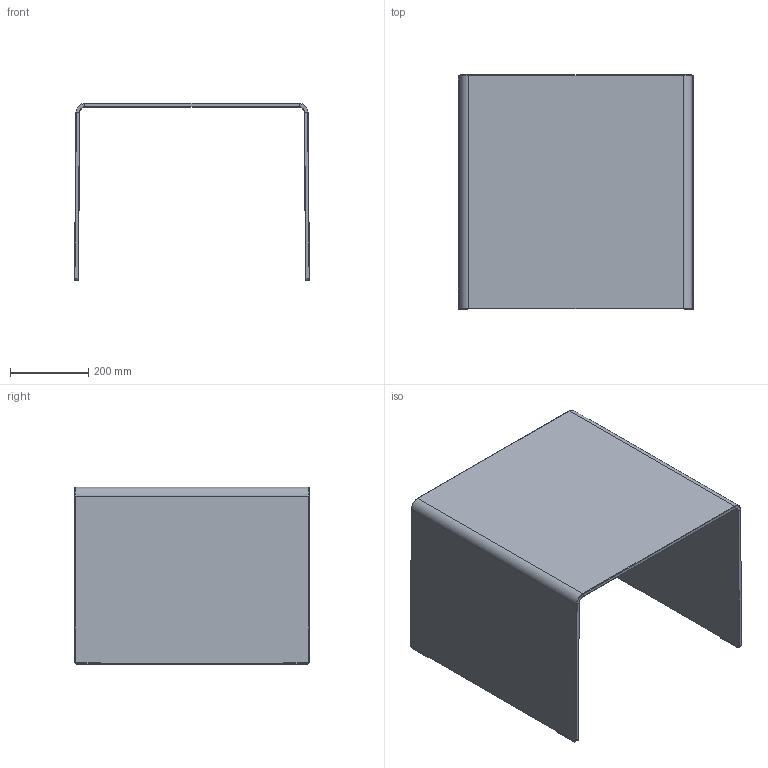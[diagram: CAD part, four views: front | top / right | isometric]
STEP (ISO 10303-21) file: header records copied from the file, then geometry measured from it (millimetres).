
FILE_DESCRIPTION((''),'2;1');
FILE_NAME('C:\AutodeskVault\AreaLavoro\Progetti\SoVeT Italia\2. Tavolini_Coffee tables\Bridge\Web file\Bridge Web\P4120.stp','2012-06-12T17:05:21',('Gianluca'),('So.Ve.T. s.r.l.'),'Autodesk Inventor 2013','Autodesk Inventor 2013','IL PROGETTO E'' DI ESCLUSIVA PROPRIETA'' DELLA SO.VE.T. srl. E'' VIETATA OGNI RIPRODUZIONE TOTALE O PARZIALE E QUALSIASI UTILIZZO NON AUTORIZZATO. ');
FILE_SCHEMA(('AUTOMOTIVE_DESIGN { 1 0 10303 214 1 1 1 1 }'));
Length unit declared in the file: millimetre
Products named in the file (1): P4120 Contorno semplificato
Bounding box: 604.24 x 600 x 454.07 mm (x, y, z)
Volume: 8788267.1 mm3; surface area: 1798384.6 mm2
Topology: 1 solids, 1 shells, 134 faces, 344 edges, 204 vertices
Faces by surface type: plane 78, cylinder 40, cone 16
Entity records: 4173 total; most frequent: DIRECTION 710, ORIENTED_EDGE 688, CARTESIAN_POINT 683, EDGE_CURVE 344, VECTOR 248, LINE 248, AXIS2_PLACEMENT_3D 231, VERTEX_POINT 204
